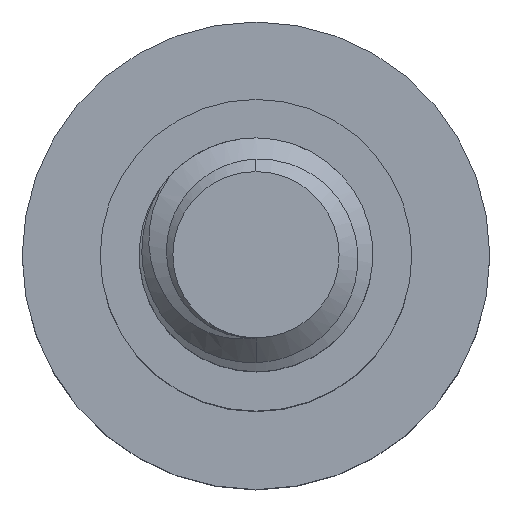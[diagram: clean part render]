
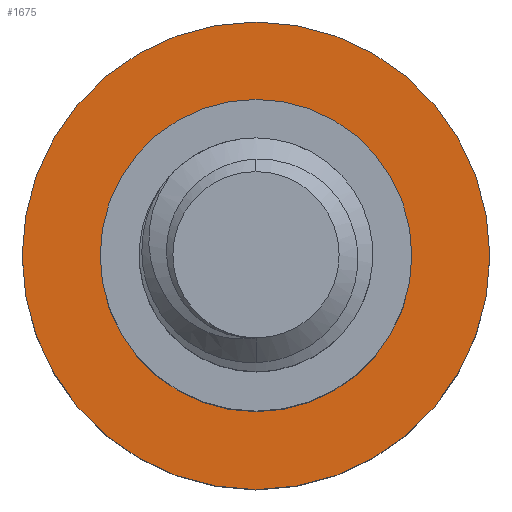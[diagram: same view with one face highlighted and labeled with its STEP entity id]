
A CAD part, top view. The second image highlights one B-rep face of the part: STEP entity #1675.
In plain terms, the highlighted planar face has unit normal (0, 0, 1).
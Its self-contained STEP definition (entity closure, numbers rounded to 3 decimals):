
#70 = DIRECTION ( 'NONE',  ( -1., 0., 0. ) ) ;
#91 = FACE_BOUND ( 'NONE', #1836, .T. ) ;
#118 = EDGE_LOOP ( 'NONE', ( #2001, #300 ) ) ;
#177 = VERTEX_POINT ( 'NONE', #1093 ) ;
#300 = ORIENTED_EDGE ( 'NONE', *, *, #1194, .F. ) ;
#307 = CARTESIAN_POINT ( 'NONE',  ( 0., 0., -4. ) ) ;
#314 = VERTEX_POINT ( 'NONE', #1483 ) ;
#401 = DIRECTION ( 'NONE',  ( -1., 0., 0. ) ) ;
#538 = CARTESIAN_POINT ( 'NONE',  ( -2., 0., -4. ) ) ;
#557 = DIRECTION ( 'NONE',  ( -1., 0., 0. ) ) ;
#743 = CARTESIAN_POINT ( 'NONE',  ( 0., 0., -4. ) ) ;
#748 = CIRCLE ( 'NONE', #1670, 3. ) ;
#772 = AXIS2_PLACEMENT_3D ( 'NONE', #743, #1966, #401 ) ;
#837 = AXIS2_PLACEMENT_3D ( 'NONE', #1115, #1816, #70 ) ;
#905 = EDGE_CURVE ( 'NONE', #2096, #177, #1656, .T. ) ;
#935 = DIRECTION ( 'NONE',  ( -1., 0., 0. ) ) ;
#946 = DIRECTION ( 'NONE',  ( 0., 0., -1. ) ) ;
#997 = DIRECTION ( 'NONE',  ( 0., 0., -1. ) ) ;
#1003 = EDGE_CURVE ( 'NONE', #2238, #314, #1505, .T. ) ;
#1008 = DIRECTION ( 'NONE',  ( -1., 0., 0. ) ) ;
#1040 = ORIENTED_EDGE ( 'NONE', *, *, #1003, .T. ) ;
#1093 = CARTESIAN_POINT ( 'NONE',  ( -3., 0., -4. ) ) ;
#1115 = CARTESIAN_POINT ( 'NONE',  ( 0., 0., -4. ) ) ;
#1194 = EDGE_CURVE ( 'NONE', #177, #2096, #748, .T. ) ;
#1253 = AXIS2_PLACEMENT_3D ( 'NONE', #2246, #1775, #557 ) ;
#1279 = FACE_OUTER_BOUND ( 'NONE', #118, .T. ) ;
#1282 = CARTESIAN_POINT ( 'NONE',  ( 0., 0., -4. ) ) ;
#1325 = CARTESIAN_POINT ( 'NONE',  ( 3., 0., -4. ) ) ;
#1327 = ORIENTED_EDGE ( 'NONE', *, *, #1699, .T. ) ;
#1483 = CARTESIAN_POINT ( 'NONE',  ( 2., 0., -4. ) ) ;
#1497 = CIRCLE ( 'NONE', #2192, 2. ) ;
#1505 = CIRCLE ( 'NONE', #1253, 2. ) ;
#1656 = CIRCLE ( 'NONE', #772, 3. ) ;
#1670 = AXIS2_PLACEMENT_3D ( 'NONE', #1282, #946, #935 ) ;
#1675 = ADVANCED_FACE ( 'NONE', ( #91, #1279 ), #1828, .F. ) ;
#1699 = EDGE_CURVE ( 'NONE', #314, #2238, #1497, .T. ) ;
#1775 = DIRECTION ( 'NONE',  ( 0., 0., -1. ) ) ;
#1816 = DIRECTION ( 'NONE',  ( 0., 0., -1. ) ) ;
#1828 = PLANE ( 'NONE',  #837 ) ;
#1836 = EDGE_LOOP ( 'NONE', ( #1040, #1327 ) ) ;
#1966 = DIRECTION ( 'NONE',  ( 0., 0., -1. ) ) ;
#2001 = ORIENTED_EDGE ( 'NONE', *, *, #905, .F. ) ;
#2096 = VERTEX_POINT ( 'NONE', #1325 ) ;
#2192 = AXIS2_PLACEMENT_3D ( 'NONE', #307, #997, #1008 ) ;
#2238 = VERTEX_POINT ( 'NONE', #538 ) ;
#2246 = CARTESIAN_POINT ( 'NONE',  ( 0., 0., -4. ) ) ;
